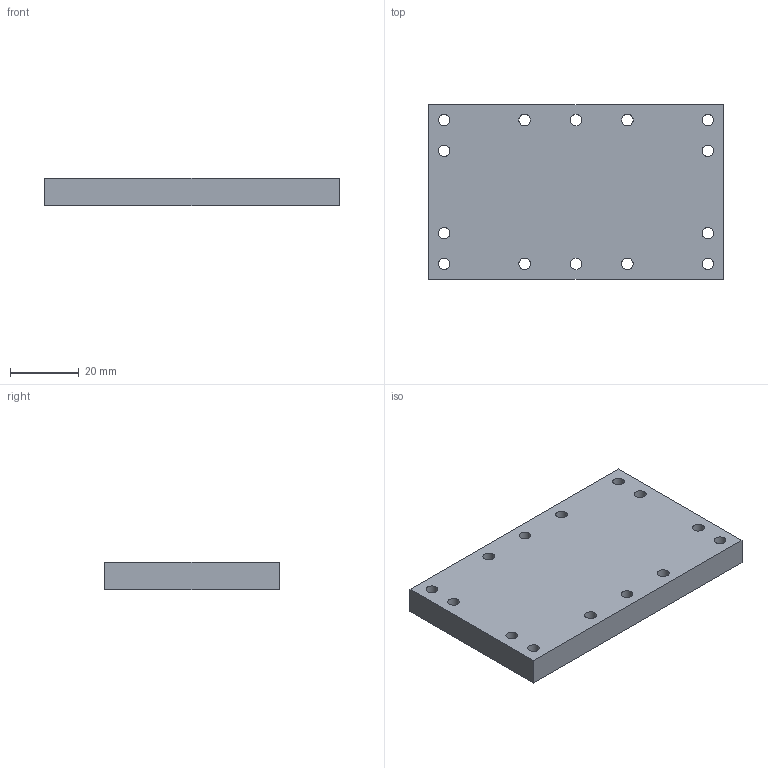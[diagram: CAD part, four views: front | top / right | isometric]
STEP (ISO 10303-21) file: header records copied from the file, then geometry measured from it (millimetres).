
FILE_DESCRIPTION(('Open CASCADE Model'),'2;1');
FILE_NAME('Open CASCADE Shape Model','2026-08-13T15:04:31',('Author'),( 'Open CASCADE'),'Open CASCADE STEP processor 7.9','build123d', 'Unknown');
FILE_SCHEMA(('AUTOMOTIVE_DESIGN { 1 0 10303 214 1 1 1 1 }'));
Length unit declared in the file: millimetre
Products named in the file (1): COMPOUND
Bounding box: 86 x 51 x 8 mm (x, y, z)
Volume: 34071.1 mm3; surface area: 11906.1 mm2
Topology: 1 solids, 1 shells, 20 faces, 54 edges, 36 vertices
Faces by surface type: cylinder 14, plane 6
Full cylindrical faces by diameter (mm): 3.4 x14
Entity records: 1414 total; most frequent: DIRECTION 232, CARTESIAN_POINT 219, ORIENTED_EDGE 108, PCURVE 108, DEFINITIONAL_REPRESENTATION 108, LINE 106, VECTOR 106, CIRCLE 56
